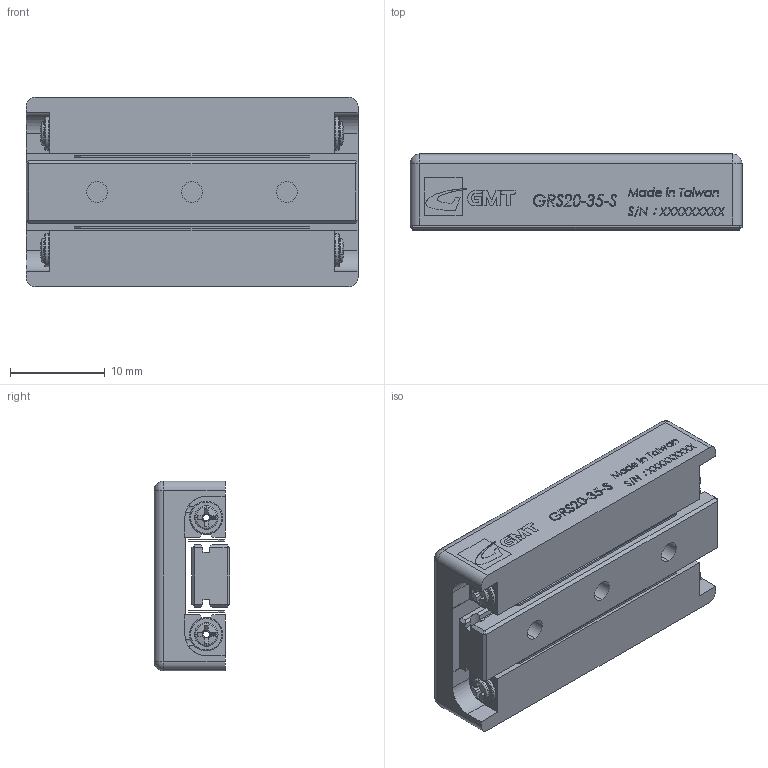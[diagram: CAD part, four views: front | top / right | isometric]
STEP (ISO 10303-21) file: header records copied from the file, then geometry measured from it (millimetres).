
FILE_DESCRIPTION (( 'STEP AP203' ), '1' );
FILE_NAME ('GRS20-35-S.STEP', '2013-12-20T08:28:59', ( '' ), ( '' ), 'SwSTEP 2.0', 'SolidWorks 2013', '' );
FILE_SCHEMA (( 'CONFIG_CONTROL_DESIGN' ));
Length unit declared in the file: millimetre
Products named in the file (1): GRS20-35-S
Bounding box: 35 x 8 x 20 mm (x, y, z)
Surface area: 3628.9 mm2 (no closed solid volume)
Topology: 0 solids, 11 shells, 476 faces, 2202 edges, 1650 vertices
Faces by surface type: plane 301, cylinder 64, bspline 59, torus 24, cone 16, sphere 12
Entity records: 27971 total; most frequent: CARTESIAN_POINT 11364, ORIENTED_EDGE 3204, DIRECTION 2990, EDGE_CURVE 2198, VERTEX_POINT 1650, VECTOR 1422, LINE 1422, AXIS2_PLACEMENT_3D 784
